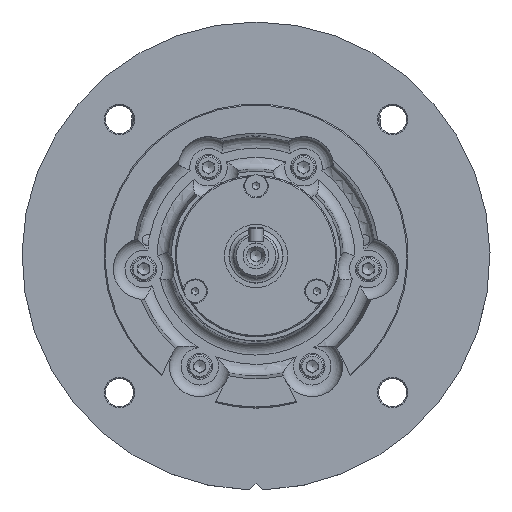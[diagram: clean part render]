
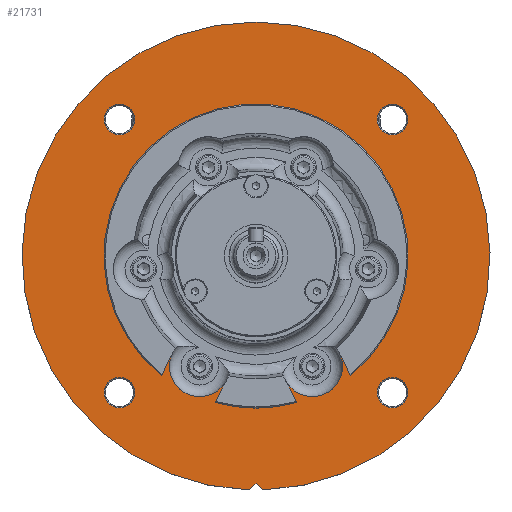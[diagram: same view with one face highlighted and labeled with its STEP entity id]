
A CAD part, top view. The second image highlights one B-rep face of the part: STEP entity #21731.
In plain terms, the highlighted planar face has unit normal (0, 0, 1).
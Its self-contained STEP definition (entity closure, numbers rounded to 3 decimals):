
#70 = EDGE_CURVE ( 'NONE', #15455, #591, #13610, .T. ) ;
#159 = VERTEX_POINT ( 'NONE', #8912 ) ;
#591 = VERTEX_POINT ( 'NONE', #4634 ) ;
#615 = EDGE_LOOP ( 'NONE', ( #15370 ) ) ;
#727 = EDGE_LOOP ( 'NONE', ( #8327, #2931, #20107, #1582, #26806, #11105, #3558, #5342 ) ) ;
#835 = CARTESIAN_POINT ( 'NONE',  ( -24., -41.568, 77.8 ) ) ;
#858 = EDGE_LOOP ( 'NONE', ( #16438 ) ) ;
#1229 = AXIS2_PLACEMENT_3D ( 'NONE', #4438, #17302, #26032 ) ;
#1582 = ORIENTED_EDGE ( 'NONE', *, *, #26300, .T. ) ;
#1631 = DIRECTION ( 'NONE',  ( 1., 0., 0. ) ) ;
#1941 = CARTESIAN_POINT ( 'NONE',  ( 58.336, -52.835, 77.8 ) ) ;
#2145 = VECTOR ( 'NONE', #24884, 1000. ) ;
#2212 = CIRCLE ( 'NONE', #19158, 6.5 ) ;
#2291 = CARTESIAN_POINT ( 'NONE',  ( -17.49, -57.101, 77.8 ) ) ;
#2308 = DIRECTION ( 'NONE',  ( 0.454, -0.891, 0. ) ) ;
#2351 = CIRCLE ( 'NONE', #18372, 6.5 ) ;
#2771 = CARTESIAN_POINT ( 'NONE',  ( -17.49, -57.101, 77.8 ) ) ;
#2931 = ORIENTED_EDGE ( 'NONE', *, *, #22936, .T. ) ;
#2968 = EDGE_CURVE ( 'NONE', #12166, #16071, #2999, .T. ) ;
#2999 = LINE ( 'NONE', #5315, #2145 ) ;
#3289 = VERTEX_POINT ( 'NONE', #21019 ) ;
#3322 = DIRECTION ( 'NONE',  ( 0., 0., -1. ) ) ;
#3445 = DIRECTION ( 'NONE',  ( 0., 0., -1. ) ) ;
#3558 = ORIENTED_EDGE ( 'NONE', *, *, #18276, .T. ) ;
#3777 = AXIS2_PLACEMENT_3D ( 'NONE', #4236, #9232, #17935 ) ;
#3795 = CARTESIAN_POINT ( 'NONE',  ( 2.956, -94.455, 77.8 ) ) ;
#4108 = VERTEX_POINT ( 'NONE', #6662 ) ;
#4236 = CARTESIAN_POINT ( 'NONE',  ( 0., 5.501, 77.8 ) ) ;
#4371 = CARTESIAN_POINT ( 'NONE',  ( 13.425, -49.13, 77.8 ) ) ;
#4438 = CARTESIAN_POINT ( 'NONE',  ( 0., 5.501, 77.8 ) ) ;
#4634 = CARTESIAN_POINT ( 'NONE',  ( 40.395, -45.422, 77.8 ) ) ;
#4702 = CIRCLE ( 'NONE', #20220, 100. ) ;
#5315 = CARTESIAN_POINT ( 'NONE',  ( -2.956, -94.455, 77.8 ) ) ;
#5342 = ORIENTED_EDGE ( 'NONE', *, *, #19606, .T. ) ;
#6240 = CARTESIAN_POINT ( 'NONE',  ( 0., 5.501, 77.8 ) ) ;
#6389 = CARTESIAN_POINT ( 'NONE',  ( 58.336, 63.838, 77.8 ) ) ;
#6514 = DIRECTION ( 'NONE',  ( 0., 0., 1. ) ) ;
#6662 = CARTESIAN_POINT ( 'NONE',  ( 17.49, -57.101, 77.8 ) ) ;
#7042 = VERTEX_POINT ( 'NONE', #13500 ) ;
#7142 = EDGE_CURVE ( 'NONE', #25499, #25499, #2212, .T. ) ;
#7558 = AXIS2_PLACEMENT_3D ( 'NONE', #6240, #6514, #12542 ) ;
#7624 = DIRECTION ( 'NONE',  ( 1., 0., 0. ) ) ;
#8148 = AXIS2_PLACEMENT_3D ( 'NONE', #27223, #3322, #7624 ) ;
#8327 = ORIENTED_EDGE ( 'NONE', *, *, #70, .T. ) ;
#8538 = EDGE_LOOP ( 'NONE', ( #28003 ) ) ;
#8665 = FACE_BOUND ( 'NONE', #18292, .T. ) ;
#8690 = VECTOR ( 'NONE', #16183, 1000. ) ;
#8912 = CARTESIAN_POINT ( 'NONE',  ( -51.836, 63.838, 77.8 ) ) ;
#9087 = CIRCLE ( 'NONE', #24125, 13. ) ;
#9232 = DIRECTION ( 'NONE',  ( 0., 0., -1. ) ) ;
#9523 = VERTEX_POINT ( 'NONE', #2291 ) ;
#9724 = LINE ( 'NONE', #18442, #13068 ) ;
#9821 = CARTESIAN_POINT ( 'NONE',  ( 36.331, -37.451, 77.8 ) ) ;
#9899 = EDGE_CURVE ( 'NONE', #19899, #19899, #25925, .T. ) ;
#9908 = EDGE_CURVE ( 'NONE', #7042, #7042, #17727, .T. ) ;
#10136 = EDGE_CURVE ( 'NONE', #27112, #27193, #13634, .T. ) ;
#10186 = DIRECTION ( 'NONE',  ( 1., 0., 0. ) ) ;
#10562 = DIRECTION ( 'NONE',  ( 1., 0., 0. ) ) ;
#10671 = FACE_BOUND ( 'NONE', #858, .T. ) ;
#10672 = CARTESIAN_POINT ( 'NONE',  ( 0., 5.501, 77.8 ) ) ;
#11105 = ORIENTED_EDGE ( 'NONE', *, *, #16417, .T. ) ;
#11933 = EDGE_CURVE ( 'NONE', #16071, #20306, #23990, .T. ) ;
#12166 = VERTEX_POINT ( 'NONE', #25844 ) ;
#12427 = ORIENTED_EDGE ( 'NONE', *, *, #15508, .T. ) ;
#12542 = DIRECTION ( 'NONE',  ( 1., 0., 0. ) ) ;
#12853 = EDGE_CURVE ( 'NONE', #4108, #9523, #13875, .T. ) ;
#12986 = DIRECTION ( 'NONE',  ( 1., 0., 0. ) ) ;
#13068 = VECTOR ( 'NONE', #19006, 1000. ) ;
#13234 = CARTESIAN_POINT ( 'NONE',  ( 13.425, -49.13, 77.8 ) ) ;
#13500 = CARTESIAN_POINT ( 'NONE',  ( -51.836, -52.835, 77.8 ) ) ;
#13610 = CIRCLE ( 'NONE', #1229, 65. ) ;
#13615 = AXIS2_PLACEMENT_3D ( 'NONE', #1941, #23706, #10562 ) ;
#13634 = CIRCLE ( 'NONE', #18170, 13. ) ;
#13875 = CIRCLE ( 'NONE', #3777, 65. ) ;
#14026 = DIRECTION ( 'NONE',  ( 0., 0., -1. ) ) ;
#14712 = FACE_OUTER_BOUND ( 'NONE', #22671, .T. ) ;
#15082 = ORIENTED_EDGE ( 'NONE', *, *, #24295, .T. ) ;
#15134 = DIRECTION ( 'NONE',  ( 0., 0., -1. ) ) ;
#15370 = ORIENTED_EDGE ( 'NONE', *, *, #9899, .T. ) ;
#15455 = VERTEX_POINT ( 'NONE', #17851 ) ;
#15508 = EDGE_CURVE ( 'NONE', #159, #159, #2351, .T. ) ;
#15777 = CARTESIAN_POINT ( 'NONE',  ( 64.836, -52.835, 77.8 ) ) ;
#16071 = VERTEX_POINT ( 'NONE', #26580 ) ;
#16183 = DIRECTION ( 'NONE',  ( -0.454, -0.891, 0. ) ) ;
#16355 = ORIENTED_EDGE ( 'NONE', *, *, #2968, .T. ) ;
#16417 = EDGE_CURVE ( 'NONE', #9523, #17791, #22395, .T. ) ;
#16438 = ORIENTED_EDGE ( 'NONE', *, *, #9908, .T. ) ;
#17243 = FACE_BOUND ( 'NONE', #8538, .T. ) ;
#17288 = VECTOR ( 'NONE', #26298, 1000. ) ;
#17302 = DIRECTION ( 'NONE',  ( 0., 0., -1. ) ) ;
#17341 = CARTESIAN_POINT ( 'NONE',  ( 64.836, 63.838, 77.8 ) ) ;
#17373 = PLANE ( 'NONE',  #7558 ) ;
#17727 = CIRCLE ( 'NONE', #8148, 6.5 ) ;
#17791 = VERTEX_POINT ( 'NONE', #18167 ) ;
#17851 = CARTESIAN_POINT ( 'NONE',  ( -40.395, -45.422, 77.8 ) ) ;
#17935 = DIRECTION ( 'NONE',  ( 1., 0., 0. ) ) ;
#18167 = CARTESIAN_POINT ( 'NONE',  ( -13.425, -49.13, 77.8 ) ) ;
#18170 = AXIS2_PLACEMENT_3D ( 'NONE', #20993, #14026, #23153 ) ;
#18276 = EDGE_CURVE ( 'NONE', #17791, #3289, #9087, .T. ) ;
#18292 = EDGE_LOOP ( 'NONE', ( #12427 ) ) ;
#18372 = AXIS2_PLACEMENT_3D ( 'NONE', #24695, #22280, #20273 ) ;
#18442 = CARTESIAN_POINT ( 'NONE',  ( 40.395, -45.422, 77.8 ) ) ;
#19006 = DIRECTION ( 'NONE',  ( -0.454, 0.891, 0. ) ) ;
#19158 = AXIS2_PLACEMENT_3D ( 'NONE', #6389, #15134, #12986 ) ;
#19240 = FACE_BOUND ( 'NONE', #615, .T. ) ;
#19606 = EDGE_CURVE ( 'NONE', #3289, #15455, #27473, .T. ) ;
#19899 = VERTEX_POINT ( 'NONE', #15777 ) ;
#20107 = ORIENTED_EDGE ( 'NONE', *, *, #10136, .T. ) ;
#20220 = AXIS2_PLACEMENT_3D ( 'NONE', #10672, #23675, #1631 ) ;
#20273 = DIRECTION ( 'NONE',  ( 1., 0., 0. ) ) ;
#20306 = VERTEX_POINT ( 'NONE', #3795 ) ;
#20506 = VECTOR ( 'NONE', #2308, 1000. ) ;
#20993 = CARTESIAN_POINT ( 'NONE',  ( 24., -41.568, 77.8 ) ) ;
#21019 = CARTESIAN_POINT ( 'NONE',  ( -36.331, -37.451, 77.8 ) ) ;
#21387 = FACE_BOUND ( 'NONE', #727, .T. ) ;
#21731 = ADVANCED_FACE ( 'NONE', ( #14712, #21387, #17243, #19240, #10671, #8665 ), #17373, .T. ) ;
#22280 = DIRECTION ( 'NONE',  ( 0., 0., -1. ) ) ;
#22395 = LINE ( 'NONE', #2771, #27564 ) ;
#22671 = EDGE_LOOP ( 'NONE', ( #16355, #27041, #15082 ) ) ;
#22936 = EDGE_CURVE ( 'NONE', #591, #27112, #9724, .T. ) ;
#23153 = DIRECTION ( 'NONE',  ( 1., 0., 0. ) ) ;
#23675 = DIRECTION ( 'NONE',  ( 0., 0., 1. ) ) ;
#23706 = DIRECTION ( 'NONE',  ( 0., 0., -1. ) ) ;
#23856 = CARTESIAN_POINT ( 'NONE',  ( 0., -91.499, 77.8 ) ) ;
#23990 = LINE ( 'NONE', #23856, #17288 ) ;
#24125 = AXIS2_PLACEMENT_3D ( 'NONE', #835, #3445, #10186 ) ;
#24295 = EDGE_CURVE ( 'NONE', #20306, #12166, #4702, .T. ) ;
#24619 = LINE ( 'NONE', #13234, #20506 ) ;
#24695 = CARTESIAN_POINT ( 'NONE',  ( -58.336, 63.838, 77.8 ) ) ;
#24884 = DIRECTION ( 'NONE',  ( 0.707, 0.707, 0. ) ) ;
#25499 = VERTEX_POINT ( 'NONE', #17341 ) ;
#25844 = CARTESIAN_POINT ( 'NONE',  ( -2.956, -94.455, 77.8 ) ) ;
#25925 = CIRCLE ( 'NONE', #13615, 6.5 ) ;
#26032 = DIRECTION ( 'NONE',  ( 1., 0., 0. ) ) ;
#26267 = DIRECTION ( 'NONE',  ( 0.454, 0.891, 0. ) ) ;
#26298 = DIRECTION ( 'NONE',  ( 0.707, -0.707, 0. ) ) ;
#26300 = EDGE_CURVE ( 'NONE', #27193, #4108, #24619, .T. ) ;
#26580 = CARTESIAN_POINT ( 'NONE',  ( 0., -91.499, 77.8 ) ) ;
#26806 = ORIENTED_EDGE ( 'NONE', *, *, #12853, .T. ) ;
#27041 = ORIENTED_EDGE ( 'NONE', *, *, #11933, .T. ) ;
#27112 = VERTEX_POINT ( 'NONE', #9821 ) ;
#27193 = VERTEX_POINT ( 'NONE', #4371 ) ;
#27223 = CARTESIAN_POINT ( 'NONE',  ( -58.336, -52.835, 77.8 ) ) ;
#27473 = LINE ( 'NONE', #27619, #8690 ) ;
#27564 = VECTOR ( 'NONE', #26267, 1000. ) ;
#27619 = CARTESIAN_POINT ( 'NONE',  ( -36.331, -37.451, 77.8 ) ) ;
#28003 = ORIENTED_EDGE ( 'NONE', *, *, #7142, .T. ) ;
